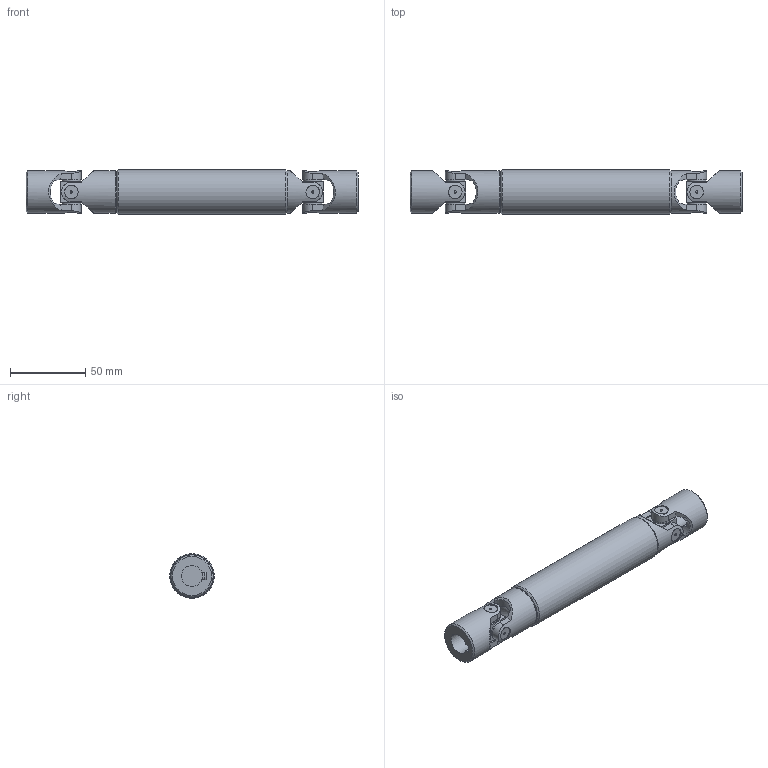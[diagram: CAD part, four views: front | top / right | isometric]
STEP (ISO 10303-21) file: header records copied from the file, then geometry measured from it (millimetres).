
FILE_DESCRIPTION(/* description */ ('EXTENSIBLE TRANSIMISSIONS Series G DIN 808 -2-'),/* implementation_level */ '2;1');
FILE_NAME(/* name */ '\\SRV2016\Societa\Stefano\Disegni 3D\00Catalogo 3D\03Trasmissioni standard GA\!05GA20\!05GA20_SG0A1420.stp',/* time_stamp */ '2022-01-31T15:40:40+01:00',/* author */ ('acquisti'),/* organization */ ('MARIOFERRI'),/* preprocessor_version */ 'ST-DEVELOPER v15.6',/* originating_system */ 'Autodesk Inventor 2015',/* authorisation */ '');
FILE_SCHEMA (('AUTOMOTIVE_DESIGN { 1 0 10303 214 3 1 1 }'));
Length unit declared in the file: millimetre
Products named in the file (5): 05G SFE; !05GA20 LAI; !05GA20 LCI; 05G MOC; !05GA20_SG0A1420
Assembly tree (6 placements, depth 2):
  !05GA20_SG0A1420
    05G SFE  x2
    !05GA20 LAI
    !05GA20 LCI
    05G MOC  x2
Bounding box: 220 x 29.5 x 29.5 mm (x, y, z)
Volume: 101771.7 mm3; surface area: 42880 mm2
Topology: 6 solids, 6 shells, 204 faces, 515 edges, 347 vertices
Faces by surface type: plane 106, cylinder 69, cone 25, torus 4
Full cylindrical faces by diameter (mm): 1.5 x8, 9 x8, 12.5 x8, 14 x1, 14.5 x2, 24 x1, 28 x4, 29.5 x1
Entity records: 5255 total; most frequent: CARTESIAN_POINT 1529, DIRECTION 751, ORIENTED_EDGE 724, EDGE_CURVE 362, AXIS2_PLACEMENT_3D 299, VERTEX_POINT 262, EDGE_LOOP 212, FACE_OUTER_BOUND 158
